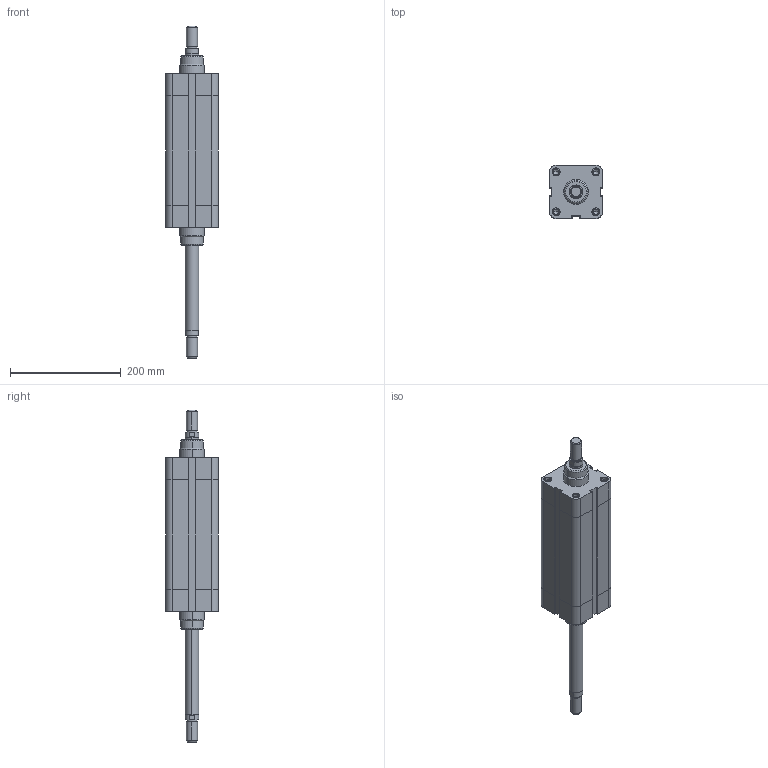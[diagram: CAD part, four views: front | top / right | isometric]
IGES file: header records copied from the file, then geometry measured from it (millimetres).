
Global section: file name: No Iges File Name specified; native system: AutoDesk Inventor R6.1; preprocessor: AutoDesk Inventor Iges Exporter R6.1; author: No Author specified; organization: No Organization specified; date: 20040107.171219; units: millimetre
Bounding box: 95.5 x 95.5 x 600 mm (x, y, z)
Volume: 2621016.4 mm3; surface area: 224048.2 mm2
Topology: 2 solids, 2 shells, 236 faces, 564 edges, 356 vertices
Faces by surface type: plane 80, bspline 62, cylinder 42, revolution 32, cone 16, torus 4
